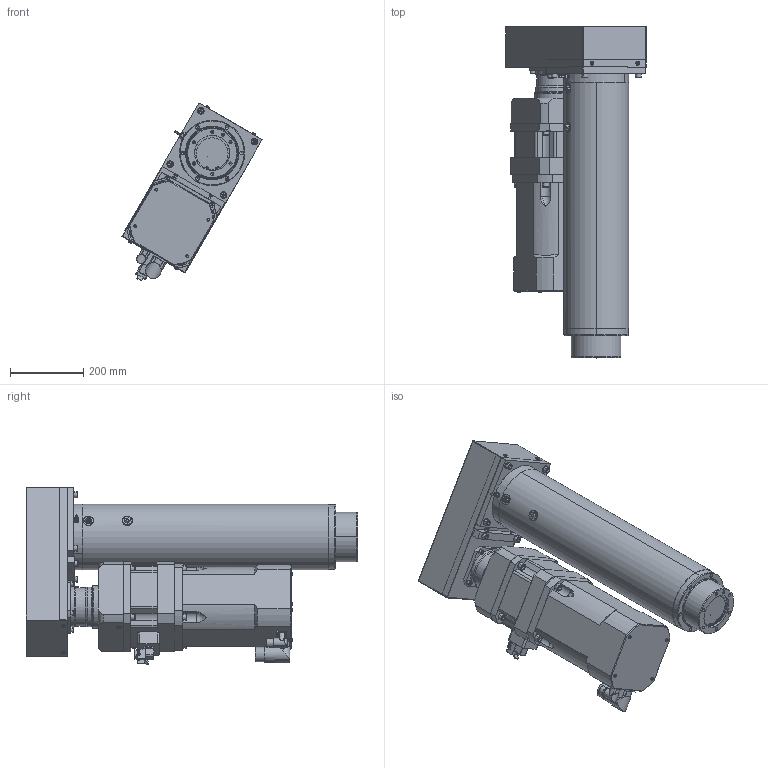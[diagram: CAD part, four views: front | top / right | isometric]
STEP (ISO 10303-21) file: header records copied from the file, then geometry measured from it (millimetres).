
FILE_DESCRIPTION (( 'STEP AP203' ), '1' );
FILE_NAME ('LN5P0600-035-025SG0.STEP', '2014-11-18T10:11:52', ( 'Holtz' ), ( '' ), 'SwSTEP 2.0', 'SolidWorks 2013', '' );
FILE_SCHEMA (( 'CONFIG_CONTROL_DESIGN' ));
Length unit declared in the file: millimetre
Products named in the file (1): LN5P0600-035-025SG0
Bounding box: 381.77 x 903.5 x 484.4 mm (x, y, z)
Volume: 33306120.5 mm3; surface area: 2859852.7 mm2
Topology: 50 solids, 50 shells, 1773 faces, 4138 edges, 2484 vertices
Faces by surface type: plane 719, cylinder 632, cone 292, torus 98, bspline 30, sphere 2
Entity records: 51887 total; most frequent: CARTESIAN_POINT 11039, DIRECTION 9035, ORIENTED_EDGE 7960, EDGE_CURVE 3980, AXIS2_PLACEMENT_3D 3489, VERTEX_POINT 2484, EDGE_LOOP 2090, LINE 2057
